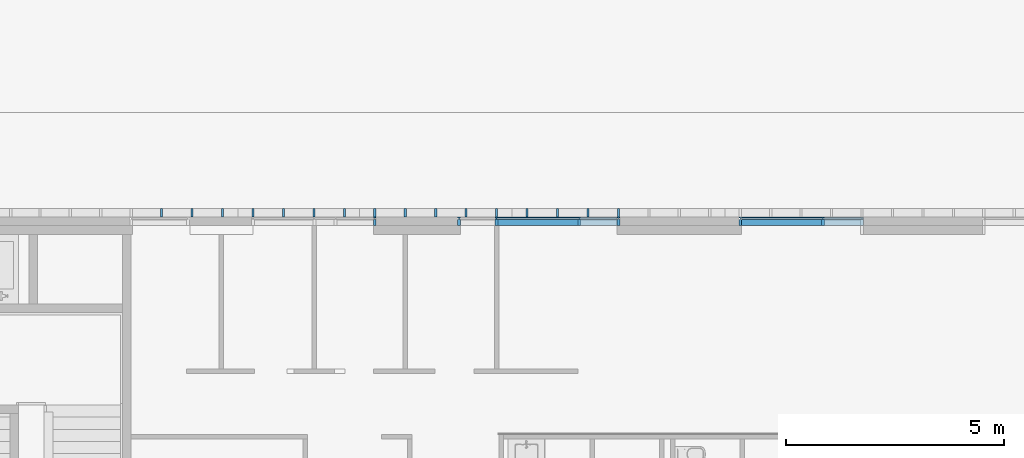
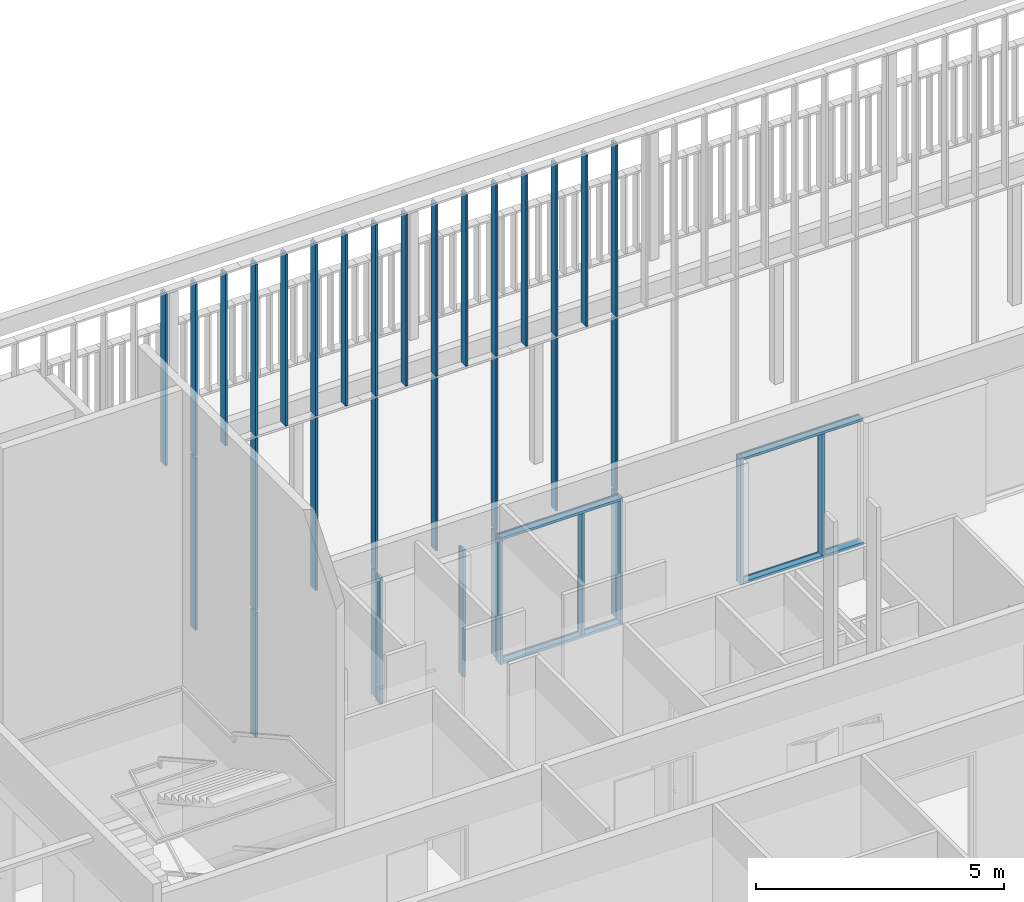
# One storey, part 27 of 240: 41 members, 5 elements without a shape of their own.
"""IFC2X3 building model written with IfcOpenShell, lengths in centimetres."""

from ifc_helpers import new_model, entity, si_unit, converted_unit, derived_unit, direction, frame, origin, origin_2d_with_axis, place, context, subcontext, project, spatial, polyline, rectangle, outline, extrude, source, transform, mapped, material, type_object, type_shapes, element, aggregate, save


model = new_model("IFC2X3")

# Units and contexts
model_context = context("Model", 3, precision=0.001, world=origin(), true_north=direction((6.12303176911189e-17, 1.0)))
body_context = subcontext(model_context, "Body", "Model", "MODEL_VIEW")
ifc_project = project(units=[si_unit("LENGTHUNIT", "METRE", prefix="CENTI"), si_unit("AREAUNIT", "SQUARE_METRE"), si_unit("VOLUMEUNIT", "CUBIC_METRE"), converted_unit("PLANEANGLEUNIT", "DEGREE", entity("IfcRatioMeasure", 0.0174532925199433), si_unit("PLANEANGLEUNIT", "RADIAN"), dimensions=[0, 0, 0, 0, 0, 0, 0]), si_unit("MASSUNIT", "GRAM", prefix="KILO"), derived_unit("MASSDENSITYUNIT", [(si_unit("MASSUNIT", "GRAM", prefix="KILO"), 1), (si_unit("LENGTHUNIT", "METRE"), -3)]), si_unit("TIMEUNIT", "SECOND"), si_unit("FREQUENCYUNIT", "HERTZ"), si_unit("THERMODYNAMICTEMPERATUREUNIT", "DEGREE_CELSIUS"), derived_unit("THERMALTRANSMITTANCEUNIT", [(si_unit("MASSUNIT", "GRAM", prefix="KILO"), 1), (si_unit("THERMODYNAMICTEMPERATUREUNIT", "KELVIN"), -1), (si_unit("TIMEUNIT", "SECOND"), -3)]), derived_unit("VOLUMETRICFLOWRATEUNIT", [(si_unit("LENGTHUNIT", "METRE"), 3), (si_unit("TIMEUNIT", "SECOND"), -1)]), si_unit("ELECTRICCURRENTUNIT", "AMPERE"), si_unit("ELECTRICVOLTAGEUNIT", "VOLT"), si_unit("POWERUNIT", "WATT"), si_unit("FORCEUNIT", "NEWTON", prefix="KILO"), si_unit("ILLUMINANCEUNIT", "LUX"), si_unit("LUMINOUSFLUXUNIT", "LUMEN"), si_unit("LUMINOUSINTENSITYUNIT", "CANDELA"), derived_unit("USERDEFINED", [(si_unit("MASSUNIT", "GRAM", prefix="KILO"), -1), (si_unit("LENGTHUNIT", "METRE"), -2), (si_unit("TIMEUNIT", "SECOND"), 3), (si_unit("LUMINOUSFLUXUNIT", "LUMEN"), 1)]), derived_unit("LINEARVELOCITYUNIT", [(si_unit("LENGTHUNIT", "METRE"), 1), (si_unit("TIMEUNIT", "SECOND"), -1)]), si_unit("PRESSUREUNIT", "PASCAL"), derived_unit("USERDEFINED", [(si_unit("LENGTHUNIT", "METRE"), -2), (si_unit("MASSUNIT", "GRAM", prefix="KILO"), 1), (si_unit("TIMEUNIT", "SECOND"), -2)])], contexts=[model_context])

# Site, building, storey
site_placement = place(None, frame((-2781.94577612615, 7442.24238424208, 0.0)))
site = spatial("IfcSite", under=ifc_project, at=site_placement, Name="Default", CompositionType="ELEMENT")
building_placement = place(site_placement, origin())
building = spatial("IfcBuilding", under=site, at=building_placement, CompositionType="ELEMENT")
storey_placement = place(building_placement, origin())
storey = spatial("IfcBuildingStorey", under=building, at=storey_placement, Name="N00 - COO", CompositionType="ELEMENT", Elevation=0.0)

# Curtain wall, members
curtain_wall_type_1 = type_object("IfcCurtainWallType", Name="Mur-rideau:07 - mur rideau trame 280 cm", PredefinedType="NOTDEFINED")
curtain_wall_1_placement = place(building_placement, origin())
curtain_wall_1 = element("IfcCurtainWall", 1, at=curtain_wall_1_placement, inside=storey, type_object=curtain_wall_type_1, Name="Mur-rideau:07 - mur rideau trame 280 cm", ObjectType="Mur-rideau:07 - mur rideau trame 280 cm")
ifc_material = material(Name="Aluminium")
member_type_1 = type_object("IfcMemberType", Name="150 x 25mm Détails", PredefinedType="MEMBER")
shared_shape_1 = source(origin(), body_context, "Body", "SweptSolid", [
    extrude(outline(polyline([(-5.66666666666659, -3.25), (-3.66666666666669, -3.25), (-3.66666666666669, -0.868749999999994), (-0.166666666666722, -0.868749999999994), (-0.166666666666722, -3.25000000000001), (13.3333333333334, -3.24999999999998), (13.3333333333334, 3.25000000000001), (-0.166666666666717, 3.25000000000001), (-0.166666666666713, 0.868749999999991), (-3.66666666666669, 0.868749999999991), (-3.66666666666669, 3.24999999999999), (-5.66666666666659, 3.24999999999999), (-5.66666666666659, -3.25)])), frame((-3.24999999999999, -1.96666666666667, -280.0), z_axis=(0.0, 0.0, 1.0), x_axis=(0.0, -1.0, 0.0)), (0.0, 0.0, 1.0), 280.00000003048),
])
type_shapes(member_type_1, [shared_shape_1])
member_1_placement = place(building_placement, frame((-1526.04988284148, -1073.7999999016, 0.0), z_axis=(1.0, 0.0, 0.0), x_axis=(0.0, 0.0, -1.0)))
member_1 = element("IfcMember", 2, at=member_1_placement, type_object=member_type_1, material=ifc_material, Name="Meneau rectangulaire:150 x 25mm Détails", ObjectType="Meneau rectangulaire:150 x 25mm Détails", context=body_context, shape_type="MappedRepresentation", body=[
    mapped(shared_shape_1, transform((0.0, 0.0, 0.0), scale=1.0)),
])
member_type_2 = type_object("IfcMemberType", Name="150 x 25mm Détails", PredefinedType="MEMBER")
shared_shape_2 = source(origin(), body_context, "Body", "SweptSolid", [
    extrude(outline(polyline([(-5.6666666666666, -3.24999999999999), (-3.66666666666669, -3.24999999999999), (-3.66666666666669, -0.868749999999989), (-0.166666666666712, -0.868749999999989), (-0.166666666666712, -3.25000000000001), (13.3333333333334, -3.25000000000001), (13.3333333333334, 3.24999999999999), (-0.16666666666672, 3.24999999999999), (-0.16666666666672, 0.868749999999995), (-3.66666666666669, 0.868749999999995), (-3.66666666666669, 3.25), (-5.6666666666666, 3.25), (-5.6666666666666, -3.24999999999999)])), frame((-3.24999999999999, -1.96666666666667, -312.5), z_axis=(0.0, 0.0, 1.0), x_axis=(0.0, -1.0, 0.0)), (0.0, 0.0, 1.0), 312.5),
])
type_shapes(member_type_2, [shared_shape_2])
member_2_placement = place(building_placement, frame((-1812.54988284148, -1073.7999999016, 0.0), z_axis=(0.0, 0.0, -1.0), x_axis=(-1.0, 0.0, 0.0)))
member_2 = element("IfcMember", 3, at=member_2_placement, type_object=member_type_2, material=ifc_material, Name="Meneau rectangulaire:150 x 25mm Détails", ObjectType="Meneau rectangulaire:150 x 25mm Détails", context=body_context, shape_type="MappedRepresentation", body=[
    mapped(shared_shape_2, transform((0.0, 0.0, 0.0), scale=1.0)),
])
member_type_3 = type_object("IfcMemberType", Name="150 x 25mm Détails", PredefinedType="MEMBER")
shared_shape_3 = source(origin(), body_context, "Body", "SweptSolid", [
    extrude(outline(polyline([(-5.66666666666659, -3.25), (-3.66666666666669, -3.25), (-3.66666666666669, -0.868749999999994), (-0.166666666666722, -0.868749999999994), (-0.166666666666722, -3.25000000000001), (13.3333333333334, -3.24999999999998), (13.3333333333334, 3.25000000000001), (-0.166666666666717, 3.25000000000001), (-0.166666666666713, 0.868749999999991), (-3.66666666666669, 0.868749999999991), (-3.66666666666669, 3.24999999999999), (-5.66666666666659, 3.24999999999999), (-5.66666666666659, -3.25)])), frame((-3.24999999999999, -1.96666666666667, -299.5), z_axis=(0.0, 0.0, 1.0), x_axis=(0.0, -1.0, 0.0)), (0.0, 0.0, 1.0), 299.5),
])
type_shapes(member_type_3, [shared_shape_3])
member_3_placement = place(building_placement, frame((-1616.04988284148, -1073.7999999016, 306.0)))
member_3 = element("IfcMember", 4, at=member_3_placement, type_object=member_type_3, material=ifc_material, Name="Meneau rectangulaire:150 x 25mm Détails", ObjectType="Meneau rectangulaire:150 x 25mm Détails", context=body_context, shape_type="MappedRepresentation", body=[
    mapped(shared_shape_3, transform((0.0, 0.0, 0.0), scale=1.0)),
])
member_type_4 = type_object("IfcMemberType", Name="150 x 25mm Détails", PredefinedType="MEMBER")
shared_shape_4 = source(origin(), body_context, "Body", "SweptSolid", [
    extrude(outline(polyline([(-5.6666666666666, -3.24999999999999), (-3.66666666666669, -3.24999999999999), (-3.66666666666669, -0.868749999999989), (-0.166666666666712, -0.868749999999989), (-0.166666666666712, -3.25000000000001), (13.3333333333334, -3.25000000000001), (13.3333333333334, 3.24999999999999), (-0.16666666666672, 3.24999999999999), (-0.16666666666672, 0.868749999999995), (-3.66666666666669, 0.868749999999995), (-3.66666666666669, 3.25), (-5.6666666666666, 3.25), (-5.6666666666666, -3.24999999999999)])), frame((-3.24999999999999, -1.96666666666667, -280.0), z_axis=(0.0, 0.0, 1.0), x_axis=(0.0, -1.0, 0.0)), (0.0, 0.0, 1.0), 280.000000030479),
])
type_shapes(member_type_4, [shared_shape_4])
member_4_placement = place(building_placement, frame((-1806.04988287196, -1073.7999999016, 312.5), z_axis=(-1.0, 0.0, 0.0), x_axis=(0.0, 0.0, 1.0)))
member_4 = element("IfcMember", 5, at=member_4_placement, type_object=member_type_4, material=ifc_material, Name="Meneau rectangulaire:150 x 25mm Détails", ObjectType="Meneau rectangulaire:150 x 25mm Détails", context=body_context, shape_type="MappedRepresentation", body=[
    mapped(shared_shape_4, transform((0.0, 0.0, 0.0), scale=1.0)),
])
aggregate(curtain_wall_1, [member_2, member_3, member_4, member_1])

# Curtain wall, member
curtain_wall_2_placement = place(building_placement, origin())
curtain_wall_2 = element("IfcCurtainWall", 6, at=curtain_wall_2_placement, inside=storey, type_object=curtain_wall_type_1, Name="Mur-rideau:07 - mur rideau trame 280 cm", ObjectType="Mur-rideau:07 - mur rideau trame 280 cm")
member_type_5 = type_object("IfcMemberType", Name="150 x 25mm Détails", PredefinedType="MEMBER")
shared_shape_5 = source(origin(), body_context, "Body", "SweptSolid", [
    extrude(outline(polyline([(-13.3333333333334, -3.25000000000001), (0.166666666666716, -3.25000000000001), (0.166666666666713, -0.86874999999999), (3.66666666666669, -0.86874999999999), (3.66666666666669, -3.24999999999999), (5.66666666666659, -3.24999999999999), (5.66666666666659, 3.25), (3.66666666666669, 3.25), (3.66666666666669, 0.868749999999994), (0.166666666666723, 0.868749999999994), (0.166666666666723, 3.25000000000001), (-13.3333333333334, 3.24999999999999), (-13.3333333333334, -3.25000000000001)])), frame((-3.24999999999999, 1.96666666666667, -312.5), z_axis=(0.0, 0.0, 1.0), x_axis=(0.0, -1.0, 0.0)), (0.0, 0.0, 1.0), 312.5),
])
type_shapes(member_type_5, [shared_shape_5])
member_5_placement = place(building_placement, frame((-2646.04988284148, -1073.7999999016, 0.0), z_axis=(0.0, 0.0, -1.0), x_axis=(1.0, 0.0, 0.0)))
member_5 = element("IfcMember", 7, at=member_5_placement, type_object=member_type_5, material=ifc_material, Name="Meneau rectangulaire:150 x 25mm Détails", ObjectType="Meneau rectangulaire:150 x 25mm Détails", context=body_context, shape_type="MappedRepresentation", body=[
    mapped(shared_shape_5, transform((0.0, 0.0, 0.0), scale=1.0)),
])

curtain_wall_3_placement = place(building_placement, origin())
curtain_wall_3 = element("IfcCurtainWall", 8, at=curtain_wall_3_placement, inside=storey, type_object=curtain_wall_type_1, Name="Mur-rideau:07 - mur rideau trame 280 cm", ObjectType="Mur-rideau:07 - mur rideau trame 280 cm")
member_6_placement = place(building_placement, frame((-2086.04988284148, -1073.7999999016, 0.0), z_axis=(0.0, 0.0, -1.0), x_axis=(1.0, 0.0, 0.0)))
member_6 = element("IfcMember", 9, at=member_6_placement, type_object=member_type_5, material=ifc_material, Name="Meneau rectangulaire:150 x 25mm Détails", ObjectType="Meneau rectangulaire:150 x 25mm Détails", context=body_context, shape_type="MappedRepresentation", body=[
    mapped(shared_shape_5, transform((0.0, 0.0, 0.0), scale=1.0)),
])

# Member
member_type_6 = type_object("IfcMemberType", Name="150 x 25mm Détails", PredefinedType="MEMBER")
shared_shape_6 = source(origin(), body_context, "Body", "SweptSolid", [
    extrude(outline(polyline([(-13.3333333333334, -3.24999999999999), (0.166666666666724, -3.24999999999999), (0.166666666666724, -0.868749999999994), (3.66666666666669, -0.868749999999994), (3.66666666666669, -3.25), (5.6666666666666, -3.25), (5.6666666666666, 3.24999999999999), (3.66666666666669, 3.24999999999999), (3.66666666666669, 0.86874999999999), (0.166666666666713, 0.86874999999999), (0.166666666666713, 3.25000000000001), (-13.3333333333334, 3.25000000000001), (-13.3333333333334, -3.24999999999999)])), frame((-3.24999999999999, 1.96666666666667, -299.5), z_axis=(0.0, 0.0, 1.0), x_axis=(0.0, -1.0, 0.0)), (0.0, 0.0, 1.0), 299.5),
])
type_shapes(member_type_6, [shared_shape_6])
member_7_placement = place(building_placement, frame((-2652.54988284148, -1073.7999999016, 306.0), z_axis=(0.0, 0.0, 1.0), x_axis=(-1.0, 0.0, 0.0)))
member_7 = element("IfcMember", 10, at=member_7_placement, type_object=member_type_6, material=ifc_material, Name="Meneau rectangulaire:150 x 25mm Détails", ObjectType="Meneau rectangulaire:150 x 25mm Détails", context=body_context, shape_type="MappedRepresentation", body=[
    mapped(shared_shape_6, transform((0.0, 0.0, 0.0), scale=1.0)),
])

aggregate(curtain_wall_2, [member_5, member_7])

member_8_placement = place(building_placement, frame((-2372.54988284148, -1073.7999999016, 306.0), z_axis=(0.0, 0.0, 1.0), x_axis=(-1.0, 0.0, 0.0)))
member_8 = element("IfcMember", 11, at=member_8_placement, type_object=member_type_6, material=ifc_material, Name="Meneau rectangulaire:150 x 25mm Détails", ObjectType="Meneau rectangulaire:150 x 25mm Détails", context=body_context, shape_type="MappedRepresentation", body=[
    mapped(shared_shape_6, transform((0.0, 0.0, 0.0), scale=1.0)),
])

member_9_placement = place(building_placement, frame((-2092.54988284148, -1073.7999999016, 306.0), z_axis=(0.0, 0.0, 1.0), x_axis=(-1.0, 0.0, 0.0)))
member_9 = element("IfcMember", 12, at=member_9_placement, type_object=member_type_6, material=ifc_material, Name="Meneau rectangulaire:150 x 25mm Détails", ObjectType="Meneau rectangulaire:150 x 25mm Détails", context=body_context, shape_type="MappedRepresentation", body=[
    mapped(shared_shape_6, transform((0.0, 0.0, 0.0), scale=1.0)),
])

member_type_7 = type_object("IfcMemberType", Name="150 x 25mm Détails", PredefinedType="MEMBER")
shared_shape_7 = source(origin(), body_context, "Body", "SweptSolid", [
    extrude(outline(polyline([(-13.3333333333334, -3.25000000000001), (0.166666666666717, -3.25000000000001), (0.166666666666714, -0.86874999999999), (3.66666666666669, -0.86874999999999), (3.66666666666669, -3.24999999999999), (5.6666666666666, -3.24999999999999), (5.6666666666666, 3.25), (3.66666666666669, 3.25), (3.66666666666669, 0.868749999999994), (0.166666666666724, 0.868749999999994), (0.166666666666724, 3.25000000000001), (-13.3333333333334, 3.24999999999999), (-13.3333333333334, -3.25000000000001)])), frame((-3.24999999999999, 1.96666666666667, -299.5), z_axis=(0.0, 0.0, 1.0), x_axis=(0.0, -1.0, 0.0)), (0.0, 0.0, 1.0), 299.5),
])
type_shapes(member_type_7, [shared_shape_7])
member_10_placement = place(building_placement, frame((-2176.04988284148, -1073.7999999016, 6.49999999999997), z_axis=(0.0, 0.0, -1.0), x_axis=(1.0, 0.0, 0.0)))
member_10 = element("IfcMember", 13, at=member_10_placement, type_object=member_type_7, material=ifc_material, Name="Meneau rectangulaire:150 x 25mm Détails", ObjectType="Meneau rectangulaire:150 x 25mm Détails", context=body_context, shape_type="MappedRepresentation", body=[
    mapped(shared_shape_7, transform((0.0, 0.0, 0.0), scale=1.0)),
])

# Curtain wall, member
curtain_wall_type_2 = type_object("IfcCurtainWallType", Name="Mur-rideau:07 - mur rideau trame 90 cm", PredefinedType="NOTDEFINED")
curtain_wall_4_placement = place(building_placement, origin())
curtain_wall_4 = element("IfcCurtainWall", 14, at=curtain_wall_4_placement, inside=storey, type_object=curtain_wall_type_2, Name="Mur-rideau:07 - mur rideau trame 90 cm", ObjectType="Mur-rideau:07 - mur rideau trame 90 cm")
member_type_8 = type_object("IfcMemberType", Name="150 x 25mm Détails", PredefinedType="MEMBER")
shared_shape_8 = source(origin(), body_context, "Body", "SweptSolid", [
    extrude(outline(polyline([(-5.6666666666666, -3.24999999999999), (-3.66666666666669, -3.24999999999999), (-3.66666666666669, -0.868749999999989), (-0.166666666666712, -0.868749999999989), (-0.166666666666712, -3.25000000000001), (13.3333333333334, -3.25000000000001), (13.3333333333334, 3.24999999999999), (-0.16666666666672, 3.24999999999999), (-0.16666666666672, 0.868749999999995), (-3.66666666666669, 0.868749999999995), (-3.66666666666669, 3.25), (-5.6666666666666, 3.25), (-5.6666666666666, -3.24999999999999)])), frame((-3.24999999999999, -1.96666666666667, -312.5), z_axis=(0.0, 0.0, 1.0), x_axis=(0.0, -1.0, 0.0)), (0.0, 0.0, 1.0), 312.5),
])
type_shapes(member_type_8, [shared_shape_8])
member_11_placement = place(building_placement, frame((-2459.29988284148, -1073.7999999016, 0.0), z_axis=(0.0, 0.0, -1.0), x_axis=(-1.0, 0.0, 0.0)))
member_11 = element("IfcMember", 15, at=member_11_placement, type_object=member_type_8, material=ifc_material, Name="Meneau rectangulaire:150 x 25mm Détails", ObjectType="Meneau rectangulaire:150 x 25mm Détails", context=body_context, shape_type="MappedRepresentation", body=[
    mapped(shared_shape_8, transform((0.0, 0.0, 0.0), scale=1.0)),
])
aggregate(curtain_wall_4, [member_11])

# Member
member_type_9 = type_object("IfcMemberType", Name="150 x 25mm Détails", PredefinedType="MEMBER")
shared_shape_9 = source(origin(), body_context, "Body", "SweptSolid", [
    extrude(outline(polyline([(-13.3333333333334, -3.25000000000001), (0.166666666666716, -3.25000000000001), (0.166666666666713, -0.86874999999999), (3.66666666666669, -0.86874999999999), (3.66666666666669, -3.24999999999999), (5.66666666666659, -3.24999999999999), (5.66666666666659, 3.25), (3.66666666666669, 3.25), (3.66666666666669, 0.868749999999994), (0.166666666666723, 0.868749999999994), (0.166666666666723, 3.25000000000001), (-13.3333333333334, 3.24999999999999), (-13.3333333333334, -3.25000000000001)])), frame((-3.24999999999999, 1.96666666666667, -280.0), z_axis=(0.0, 0.0, 1.0), x_axis=(0.0, -1.0, 0.0)), (0.0, 0.0, 1.0), 280.00000003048),
])
type_shapes(member_type_9, [shared_shape_9])
member_12_placement = place(building_placement, frame((-2092.549882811, -1073.7999999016, 312.5), z_axis=(1.0, 0.0, 0.0), x_axis=(0.0, 0.0, 1.0)))
member_12 = element("IfcMember", 16, at=member_12_placement, type_object=member_type_9, material=ifc_material, Name="Meneau rectangulaire:150 x 25mm Détails", ObjectType="Meneau rectangulaire:150 x 25mm Détails", context=body_context, shape_type="MappedRepresentation", body=[
    mapped(shared_shape_9, transform((0.0, 0.0, 0.0), scale=1.0)),
])

member_type_10 = type_object("IfcMemberType", Name="150 x 25mm Détails", PredefinedType="MEMBER")
shared_shape_10 = source(origin(), body_context, "Body", "SweptSolid", [
    extrude(outline(polyline([(-13.3333333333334, -3.24999999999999), (0.166666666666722, -3.24999999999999), (0.166666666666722, -0.868749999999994), (3.66666666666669, -0.868749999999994), (3.66666666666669, -3.25), (5.66666666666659, -3.25), (5.66666666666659, 3.24999999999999), (3.66666666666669, 3.24999999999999), (3.66666666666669, 0.86874999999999), (0.166666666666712, 0.86874999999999), (0.166666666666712, 3.25000000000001), (-13.3333333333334, 3.25000000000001), (-13.3333333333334, -3.24999999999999)])), frame((-3.24999999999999, 1.96666666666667, -280.0), z_axis=(0.0, 0.0, 1.0), x_axis=(0.0, -1.0, 0.0)), (0.0, 0.0, 1.0), 280.00000003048),
])
type_shapes(member_type_10, [shared_shape_10])
member_13_placement = place(building_placement, frame((-2372.54988284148, -1073.7999999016, 0.0), z_axis=(-1.0, 0.0, 0.0), x_axis=(0.0, 0.0, -1.0)))
member_13 = element("IfcMember", 17, at=member_13_placement, type_object=member_type_10, material=ifc_material, Name="Meneau rectangulaire:150 x 25mm Détails", ObjectType="Meneau rectangulaire:150 x 25mm Détails", context=body_context, shape_type="MappedRepresentation", body=[
    mapped(shared_shape_10, transform((0.0, 0.0, 0.0), scale=1.0)),
])

aggregate(curtain_wall_3, [member_6, member_8, member_9, member_10, member_12, member_13])

# Curtain wall, members
curtain_wall_type_3 = type_object("IfcCurtainWallType", Name="Mur-rideau:Epines - 200x30mm", PredefinedType="NOTDEFINED")
curtain_wall_5_placement = place(storey_placement, origin())
curtain_wall_5 = element("IfcCurtainWall", 18, at=curtain_wall_5_placement, inside=storey, type_object=curtain_wall_type_3, Name="Mur-rideau:Epines - 200x30mm", ObjectType="Mur-rideau:Epines - 200x30mm")
member_type_11 = type_object("IfcMemberType", Name="200x50 mm nord", PredefinedType="MEMBER")
shared_shape_11 = source(origin(), body_context, "Body", "SweptSolid", [
    extrude(rectangle(XDim=20.0, YDim=5.0, at=origin_2d_with_axis()), frame((0.0, 0.0, -423.0), z_axis=(0.0, 0.0, 1.0), x_axis=(0.0, -1.0, 0.0)), (0.0, 0.0, 1.0), 423.000000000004),
])
type_shapes(member_type_11, [shared_shape_11])
member_14_placement = place(storey_placement, frame((-2089.29988284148, -1060.0, 748.0), z_axis=(0.0, 0.0, -1.0), x_axis=(1.0, 0.0, 0.0)))
member_14 = element("IfcMember", 19, at=member_14_placement, type_object=member_type_11, material=ifc_material, Name="Meneau rectangulaire:200x50 mm nord", ObjectType="Meneau rectangulaire:200x50 mm nord", context=body_context, shape_type="MappedRepresentation", body=[
    mapped(shared_shape_11, transform((0.0, 0.0, 0.0), scale=1.0)),
])
member_15_placement = place(storey_placement, frame((-2369.29988284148, -1060.0, 748.0), z_axis=(0.0, 0.0, -1.0), x_axis=(1.0, 0.0, 0.0)))
member_15 = element("IfcMember", 20, at=member_15_placement, type_object=member_type_11, material=ifc_material, Name="Meneau rectangulaire:200x50 mm nord", ObjectType="Meneau rectangulaire:200x50 mm nord", context=body_context, shape_type="MappedRepresentation", body=[
    mapped(shared_shape_11, transform((0.0, 0.0, 0.0), scale=1.0)),
])
member_16_placement = place(storey_placement, frame((-2649.29988284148, -1060.0, 748.0), z_axis=(0.0, 0.0, -1.0), x_axis=(1.0, 0.0, 0.0)))
member_16 = element("IfcMember", 21, at=member_16_placement, type_object=member_type_11, material=ifc_material, Name="Meneau rectangulaire:200x50 mm nord", ObjectType="Meneau rectangulaire:200x50 mm nord", context=body_context, shape_type="MappedRepresentation", body=[
    mapped(shared_shape_11, transform((0.0, 0.0, 0.0), scale=1.0)),
])
member_17_placement = place(storey_placement, frame((-2929.29988284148, -1060.0, 748.0), z_axis=(0.0, 0.0, -1.0), x_axis=(1.0, 0.0, 0.0)))
member_17 = element("IfcMember", 22, at=member_17_placement, type_object=member_type_11, material=ifc_material, Name="Meneau rectangulaire:200x50 mm nord", ObjectType="Meneau rectangulaire:200x50 mm nord", context=body_context, shape_type="MappedRepresentation", body=[
    mapped(shared_shape_11, transform((0.0, 0.0, 0.0), scale=1.0)),
])
member_18_placement = place(storey_placement, frame((-2229.29988284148, -1060.0, 748.0), z_axis=(0.0, 0.0, -1.0), x_axis=(1.0, 0.0, 0.0)))
member_18 = element("IfcMember", 23, at=member_18_placement, type_object=member_type_11, material=ifc_material, Name="Meneau rectangulaire:200x50 mm nord", ObjectType="Meneau rectangulaire:200x50 mm nord", context=body_context, shape_type="MappedRepresentation", body=[
    mapped(shared_shape_11, transform((0.0, 0.0, 0.0), scale=1.0)),
])
member_19_placement = place(storey_placement, frame((-2509.29988284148, -1060.0, 748.0), z_axis=(0.0, 0.0, -1.0), x_axis=(1.0, 0.0, 0.0)))
member_19 = element("IfcMember", 24, at=member_19_placement, type_object=member_type_11, material=ifc_material, Name="Meneau rectangulaire:200x50 mm nord", ObjectType="Meneau rectangulaire:200x50 mm nord", context=body_context, shape_type="MappedRepresentation", body=[
    mapped(shared_shape_11, transform((0.0, 0.0, 0.0), scale=1.0)),
])
member_20_placement = place(storey_placement, frame((-2789.29988284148, -1060.0, 748.0), z_axis=(0.0, 0.0, -1.0), x_axis=(1.0, 0.0, 0.0)))
member_20 = element("IfcMember", 25, at=member_20_placement, type_object=member_type_11, material=ifc_material, Name="Meneau rectangulaire:200x50 mm nord", ObjectType="Meneau rectangulaire:200x50 mm nord", context=body_context, shape_type="MappedRepresentation", body=[
    mapped(shared_shape_11, transform((0.0, 0.0, 0.0), scale=1.0)),
])
member_21_placement = place(storey_placement, frame((-3069.29988284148, -1060.0, 748.0), z_axis=(0.0, 0.0, -1.0), x_axis=(1.0, 0.0, 0.0)))
member_21 = element("IfcMember", 26, at=member_21_placement, type_object=member_type_11, material=ifc_material, Name="Meneau rectangulaire:200x50 mm nord", ObjectType="Meneau rectangulaire:200x50 mm nord", context=body_context, shape_type="MappedRepresentation", body=[
    mapped(shared_shape_11, transform((0.0, 0.0, 0.0), scale=1.0)),
])
member_22_placement = place(storey_placement, frame((-2159.29988284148, -1060.0, 748.0), z_axis=(0.0, 0.0, -1.0), x_axis=(1.0, 0.0, 0.0)))
member_22 = element("IfcMember", 27, at=member_22_placement, type_object=member_type_11, material=ifc_material, Name="Meneau rectangulaire:200x50 mm nord", ObjectType="Meneau rectangulaire:200x50 mm nord", context=body_context, shape_type="MappedRepresentation", body=[
    mapped(shared_shape_11, transform((0.0, 0.0, 0.0), scale=1.0)),
])
member_23_placement = place(storey_placement, frame((-2299.29988284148, -1060.0, 748.0), z_axis=(0.0, 0.0, -1.0), x_axis=(1.0, 0.0, 0.0)))
member_23 = element("IfcMember", 28, at=member_23_placement, type_object=member_type_11, material=ifc_material, Name="Meneau rectangulaire:200x50 mm nord", ObjectType="Meneau rectangulaire:200x50 mm nord", context=body_context, shape_type="MappedRepresentation", body=[
    mapped(shared_shape_11, transform((0.0, 0.0, 0.0), scale=1.0)),
])
member_24_placement = place(storey_placement, frame((-2439.29988284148, -1060.0, 748.0), z_axis=(0.0, 0.0, -1.0), x_axis=(1.0, 0.0, 0.0)))
member_24 = element("IfcMember", 29, at=member_24_placement, type_object=member_type_11, material=ifc_material, Name="Meneau rectangulaire:200x50 mm nord", ObjectType="Meneau rectangulaire:200x50 mm nord", context=body_context, shape_type="MappedRepresentation", body=[
    mapped(shared_shape_11, transform((0.0, 0.0, 0.0), scale=1.0)),
])
member_25_placement = place(storey_placement, frame((-2579.29988284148, -1060.0, 748.0), z_axis=(0.0, 0.0, -1.0), x_axis=(1.0, 0.0, 0.0)))
member_25 = element("IfcMember", 30, at=member_25_placement, type_object=member_type_11, material=ifc_material, Name="Meneau rectangulaire:200x50 mm nord", ObjectType="Meneau rectangulaire:200x50 mm nord", context=body_context, shape_type="MappedRepresentation", body=[
    mapped(shared_shape_11, transform((0.0, 0.0, 0.0), scale=1.0)),
])
member_26_placement = place(storey_placement, frame((-2719.29988284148, -1060.0, 748.0), z_axis=(0.0, 0.0, -1.0), x_axis=(1.0, 0.0, 0.0)))
member_26 = element("IfcMember", 31, at=member_26_placement, type_object=member_type_11, material=ifc_material, Name="Meneau rectangulaire:200x50 mm nord", ObjectType="Meneau rectangulaire:200x50 mm nord", context=body_context, shape_type="MappedRepresentation", body=[
    mapped(shared_shape_11, transform((0.0, 0.0, 0.0), scale=1.0)),
])
member_27_placement = place(storey_placement, frame((-2859.29988284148, -1060.0, 748.0), z_axis=(0.0, 0.0, -1.0), x_axis=(1.0, 0.0, 0.0)))
member_27 = element("IfcMember", 32, at=member_27_placement, type_object=member_type_11, material=ifc_material, Name="Meneau rectangulaire:200x50 mm nord", ObjectType="Meneau rectangulaire:200x50 mm nord", context=body_context, shape_type="MappedRepresentation", body=[
    mapped(shared_shape_11, transform((0.0, 0.0, 0.0), scale=1.0)),
])
member_28_placement = place(storey_placement, frame((-2999.29988284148, -1060.0, 748.0), z_axis=(0.0, 0.0, -1.0), x_axis=(1.0, 0.0, 0.0)))
member_28 = element("IfcMember", 33, at=member_28_placement, type_object=member_type_11, material=ifc_material, Name="Meneau rectangulaire:200x50 mm nord", ObjectType="Meneau rectangulaire:200x50 mm nord", context=body_context, shape_type="MappedRepresentation", body=[
    mapped(shared_shape_11, transform((0.0, 0.0, 0.0), scale=1.0)),
])
member_29_placement = place(storey_placement, frame((-3139.29988284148, -1060.0, 748.0), z_axis=(0.0, 0.0, -1.0), x_axis=(1.0, 0.0, 0.0)))
member_29 = element("IfcMember", 34, at=member_29_placement, type_object=member_type_11, material=ifc_material, Name="Meneau rectangulaire:200x50 mm nord", ObjectType="Meneau rectangulaire:200x50 mm nord", context=body_context, shape_type="MappedRepresentation", body=[
    mapped(shared_shape_11, transform((0.0, 0.0, 0.0), scale=1.0)),
])
member_type_12 = type_object("IfcMemberType", Name="200x50 mm nord", PredefinedType="MEMBER")
shared_shape_12 = source(origin(), body_context, "Body", "SweptSolid", [
    extrude(rectangle(XDim=20.0, YDim=5.0, at=origin_2d_with_axis()), frame((0.0, 0.0, -425.0), z_axis=(0.0, 0.0, 1.0), x_axis=(0.0, -1.0, 0.0)), (0.0, 0.0, 1.0), 425.0),
])
type_shapes(member_type_12, [shared_shape_12])
member_30_placement = place(storey_placement, frame((-2089.29988284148, -1060.0, 318.0), z_axis=(0.0, 0.0, -1.0), x_axis=(1.0, 0.0, 0.0)))
member_30 = element("IfcMember", 35, at=member_30_placement, type_object=member_type_12, material=ifc_material, Name="Meneau rectangulaire:200x50 mm nord", ObjectType="Meneau rectangulaire:200x50 mm nord", context=body_context, shape_type="MappedRepresentation", body=[
    mapped(shared_shape_12, transform((0.0, 0.0, 0.0), scale=1.0)),
])
member_31_placement = place(storey_placement, frame((-2369.29988284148, -1060.0, 318.0), z_axis=(0.0, 0.0, -1.0), x_axis=(1.0, 0.0, 0.0)))
member_31 = element("IfcMember", 36, at=member_31_placement, type_object=member_type_12, material=ifc_material, Name="Meneau rectangulaire:200x50 mm nord", ObjectType="Meneau rectangulaire:200x50 mm nord", context=body_context, shape_type="MappedRepresentation", body=[
    mapped(shared_shape_12, transform((0.0, 0.0, 0.0), scale=1.0)),
])
member_32_placement = place(storey_placement, frame((-2649.29988284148, -1060.0, 318.0), z_axis=(0.0, 0.0, -1.0), x_axis=(1.0, 0.0, 0.0)))
member_32 = element("IfcMember", 37, at=member_32_placement, type_object=member_type_12, material=ifc_material, Name="Meneau rectangulaire:200x50 mm nord", ObjectType="Meneau rectangulaire:200x50 mm nord", context=body_context, shape_type="MappedRepresentation", body=[
    mapped(shared_shape_12, transform((0.0, 0.0, 0.0), scale=1.0)),
])
member_33_placement = place(storey_placement, frame((-2929.29988284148, -1060.0, 318.0), z_axis=(0.0, 0.0, -1.0), x_axis=(1.0, 0.0, 0.0)))
member_33 = element("IfcMember", 38, at=member_33_placement, type_object=member_type_12, material=ifc_material, Name="Meneau rectangulaire:200x50 mm nord", ObjectType="Meneau rectangulaire:200x50 mm nord", context=body_context, shape_type="MappedRepresentation", body=[
    mapped(shared_shape_12, transform((0.0, 0.0, 0.0), scale=1.0)),
])
member_34_placement = place(storey_placement, frame((-2229.29988284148, -1060.0, 318.0), z_axis=(0.0, 0.0, -1.0), x_axis=(1.0, 0.0, 0.0)))
member_34 = element("IfcMember", 39, at=member_34_placement, type_object=member_type_12, material=ifc_material, Name="Meneau rectangulaire:200x50 mm nord", ObjectType="Meneau rectangulaire:200x50 mm nord", context=body_context, shape_type="MappedRepresentation", body=[
    mapped(shared_shape_12, transform((0.0, 0.0, 0.0), scale=1.0)),
])
member_35_placement = place(storey_placement, frame((-2509.29988284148, -1060.0, 318.0), z_axis=(0.0, 0.0, -1.0), x_axis=(1.0, 0.0, 0.0)))
member_35 = element("IfcMember", 40, at=member_35_placement, type_object=member_type_12, material=ifc_material, Name="Meneau rectangulaire:200x50 mm nord", ObjectType="Meneau rectangulaire:200x50 mm nord", context=body_context, shape_type="MappedRepresentation", body=[
    mapped(shared_shape_12, transform((0.0, 0.0, 0.0), scale=1.0)),
])
member_36_placement = place(storey_placement, frame((-2789.29988284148, -1060.0, 318.0), z_axis=(0.0, 0.0, -1.0), x_axis=(1.0, 0.0, 0.0)))
member_36 = element("IfcMember", 41, at=member_36_placement, type_object=member_type_12, material=ifc_material, Name="Meneau rectangulaire:200x50 mm nord", ObjectType="Meneau rectangulaire:200x50 mm nord", context=body_context, shape_type="MappedRepresentation", body=[
    mapped(shared_shape_12, transform((0.0, 0.0, 0.0), scale=1.0)),
])
member_37_placement = place(storey_placement, frame((-3069.29988284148, -1060.0, 318.0), z_axis=(0.0, 0.0, -1.0), x_axis=(1.0, 0.0, 0.0)))
member_37 = element("IfcMember", 42, at=member_37_placement, type_object=member_type_12, material=ifc_material, Name="Meneau rectangulaire:200x50 mm nord", ObjectType="Meneau rectangulaire:200x50 mm nord", context=body_context, shape_type="MappedRepresentation", body=[
    mapped(shared_shape_12, transform((0.0, 0.0, 0.0), scale=1.0)),
])
member_type_13 = type_object("IfcMemberType", Name="200x50 mm nord", PredefinedType="MEMBER")
shared_shape_13 = source(origin(), body_context, "Body", "SweptSolid", [
    extrude(rectangle(XDim=20.0, YDim=5.0, at=origin_2d_with_axis()), frame((0.0, 0.0, -308.0), z_axis=(0.0, 0.0, 1.0), x_axis=(0.0, -1.0, 0.0)), (0.0, 0.0, 1.0), 308.0),
])
type_shapes(member_type_13, [shared_shape_13])
member_38_placement = place(storey_placement, frame((-2089.29988284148, -1060.0, 5.0), z_axis=(0.0, 0.0, -1.0), x_axis=(1.0, 0.0, 0.0)))
member_38 = element("IfcMember", 43, at=member_38_placement, type_object=member_type_13, material=ifc_material, Name="Meneau rectangulaire:200x50 mm nord", ObjectType="Meneau rectangulaire:200x50 mm nord", context=body_context, shape_type="MappedRepresentation", body=[
    mapped(shared_shape_13, transform((0.0, 0.0, 0.0), scale=1.0)),
])
member_39_placement = place(storey_placement, frame((-2369.29988284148, -1060.0, 5.0), z_axis=(0.0, 0.0, -1.0), x_axis=(1.0, 0.0, 0.0)))
member_39 = element("IfcMember", 44, at=member_39_placement, type_object=member_type_13, material=ifc_material, Name="Meneau rectangulaire:200x50 mm nord", ObjectType="Meneau rectangulaire:200x50 mm nord", context=body_context, shape_type="MappedRepresentation", body=[
    mapped(shared_shape_13, transform((0.0, 0.0, 0.0), scale=1.0)),
])
member_40_placement = place(storey_placement, frame((-2649.29988284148, -1060.0, 5.0), z_axis=(0.0, 0.0, -1.0), x_axis=(1.0, 0.0, 0.0)))
member_40 = element("IfcMember", 45, at=member_40_placement, type_object=member_type_13, material=ifc_material, Name="Meneau rectangulaire:200x50 mm nord", ObjectType="Meneau rectangulaire:200x50 mm nord", context=body_context, shape_type="MappedRepresentation", body=[
    mapped(shared_shape_13, transform((0.0, 0.0, 0.0), scale=1.0)),
])
member_41_placement = place(storey_placement, frame((-2929.29988284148, -1060.0, 5.0), z_axis=(0.0, 0.0, -1.0), x_axis=(1.0, 0.0, 0.0)))
member_41 = element("IfcMember", 46, at=member_41_placement, type_object=member_type_13, material=ifc_material, Name="Meneau rectangulaire:200x50 mm nord", ObjectType="Meneau rectangulaire:200x50 mm nord", context=body_context, shape_type="MappedRepresentation", body=[
    mapped(shared_shape_13, transform((0.0, 0.0, 0.0), scale=1.0)),
])
aggregate(curtain_wall_5, [member_14, member_30, member_38, member_15, member_31, member_39, member_16, member_32, member_40, member_17, member_33, member_41, member_34, member_18, member_19, member_35, member_36, member_20, member_21, member_37, member_22, member_23, member_24, member_25, member_26, member_27, member_28, member_29])

save(model, "model.ifc")
